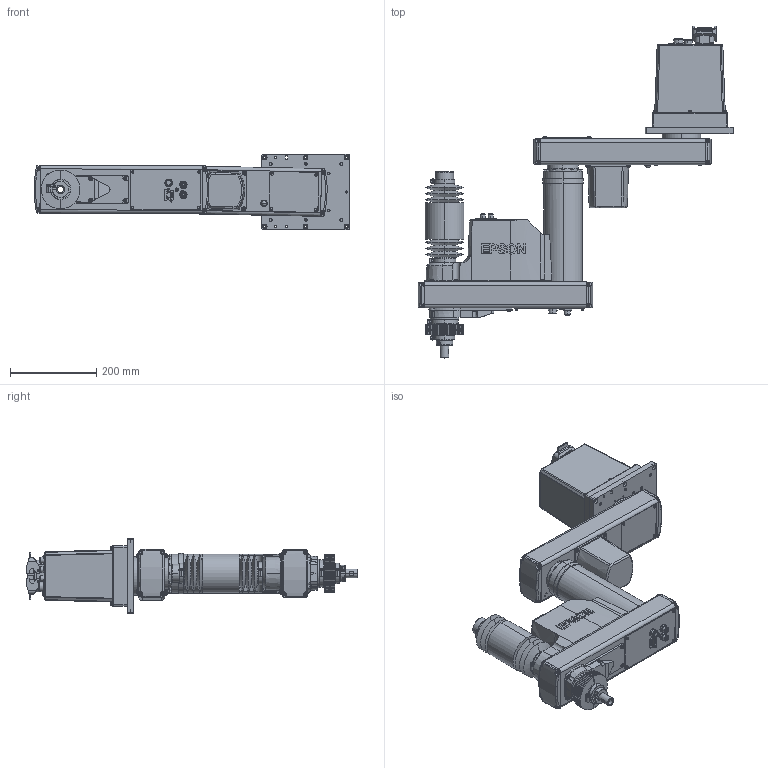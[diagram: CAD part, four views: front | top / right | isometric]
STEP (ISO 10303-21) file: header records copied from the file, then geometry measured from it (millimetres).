
FILE_DESCRIPTION (( 'STEP AP214' ), '1' );
FILE_NAME ('RS6-x552C.STEP', '2025-11-21T21:04:07', ( '' ), ( '' ), 'SwSTEP 2.0', 'SolidWorks 2020', '' );
FILE_SCHEMA (( 'AUTOMOTIVE_DESIGN' ));
Length unit declared in the file: millimetre
Products named in the file (7): RS6-C552C-BELLOWS_2; RS6-C552C-J2_ARM; RS6-C552C-BOX; RS6-x552C; RS6-C552C-BELLOWS_1; RS6-C552C-Z_AXIS_SHAFT; RS6-C552C-J1_ARM
Assembly tree (6 placements, depth 2):
  RS6-x552C
    RS6-C552C-BOX
    RS6-C552C-J1_ARM
    RS6-C552C-J2_ARM
    RS6-C552C-Z_AXIS_SHAFT
    RS6-C552C-BELLOWS_1
    RS6-C552C-BELLOWS_2
Bounding box: 733.34 x 770.9 x 175 mm (x, y, z)
Volume: 11456959.3 mm3; surface area: 1038566 mm2
Topology: 5 solids, 6 shells, 3361 faces, 8526 edges, 5577 vertices
Faces by surface type: plane 1487, cylinder 1198, cone 431, torus 203, sphere 22, bspline 20
Entity records: 150188 total; most frequent: CARTESIAN_POINT 54261, ORIENTED_EDGE 17036, DIRECTION 13236, EDGE_CURVE 8518, VERTEX_POINT 5575, AXIS2_PLACEMENT_3D 5406, B_SPLINE_CURVE_WITH_KNOTS 4037, EDGE_LOOP 3813
